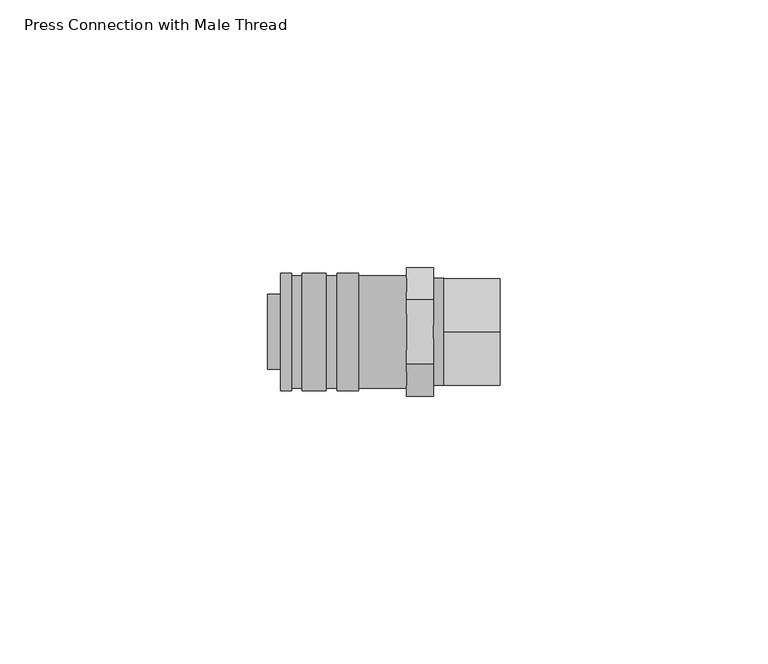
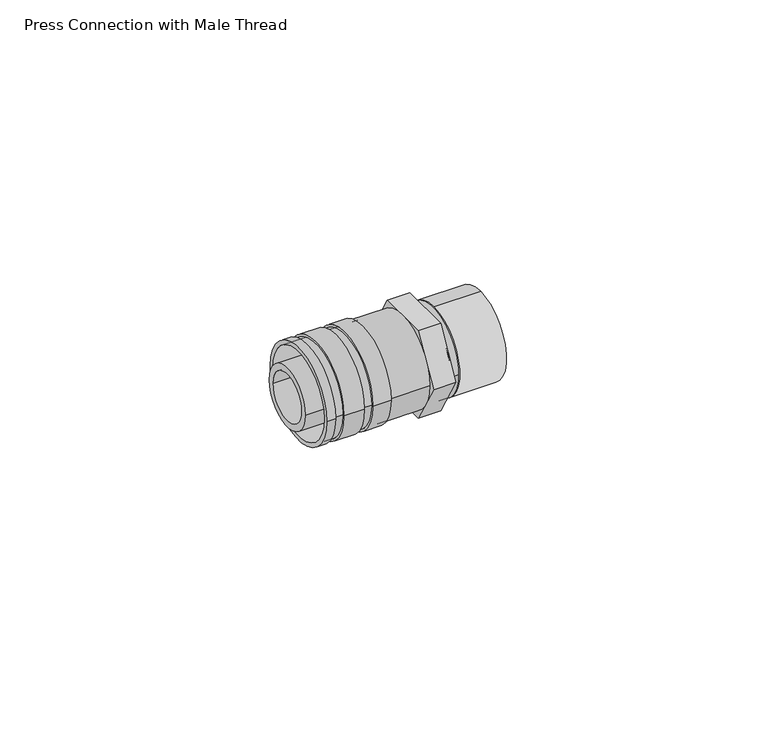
"""IFC4 building model written with IfcOpenShell, lengths in millimetres: pipe fitting geometry, Press Connection with Male Thread : Superpipe Press Connection - 20x½” MT."""

import ifcopenshell
import ifcopenshell.guid

model = None  # the IFC model being written
_history = None  # IfcOwnerHistory: only IFC2X3 demands one
_inside = {}  # id of a spatial element -> (the spatial element, [elements in it])
_under = {}  # id of a project, library or spatial element -> (it, [spatial elements below it])
_declared = {}  # id of a project -> (the project, [libraries it declares])
_typed = {}  # id of a type object -> (the type object, [elements of that type])
_made_of = {}  # id of a material, layer set ... -> (it, [elements and type objects made of it])


def new_model(schema):
    """Start an empty IFC model of exactly this schema.

    Asked for "IFC4X3", IfcOpenShell would pick the latest addendum, in which some entities
    have other attributes; the version numbers below select the first issue.
    IFC2X3 requires an IfcOwnerHistory on every rooted entity: one is made here for all.
    """
    global model, _history
    if schema == "IFC4X3":
        model = ifcopenshell.file(schema_version=(4, 3, 0, 0))
    else:
        model = ifcopenshell.file(schema=schema)
    _inside.clear()
    _under.clear()
    _declared.clear()
    _typed.clear()
    _made_of.clear()
    _history = None
    if model.schema == "IFC2X3":
        org = make("IfcOrganization", Name="unknown")
        user = make(
            "IfcPersonAndOrganization",
            ThePerson=make("IfcPerson", FamilyName="unknown"),
            TheOrganization=org,
        )
        app = make(
            "IfcApplication",
            ApplicationDeveloper=org,
            Version="unknown",
            ApplicationFullName="unknown",
            ApplicationIdentifier="unknown",
        )
        _history = make(
            "IfcOwnerHistory",
            OwningUser=user,
            OwningApplication=app,
            ChangeAction="ADDED",
            CreationDate=0,
        )
    return model


def make(cls, **values):
    """One entity of the class cls with the attributes given. An attribute that is None is left unset."""
    return model.create_entity(
        cls, **{name: value for name, value in values.items() if value is not None}
    )


def rooted(cls, **values):
    """An entity with a GlobalId (a new one), such as an element, a storey or a relation."""
    return make(cls, GlobalId=ifcopenshell.guid.new(), OwnerHistory=_history, **values)


def si_unit(unit_type, name, prefix=None):
    """IfcSIUnit, for example si_unit("LENGTHUNIT", "METRE", prefix="MILLI")."""
    return make("IfcSIUnit", UnitType=unit_type, Prefix=prefix, Name=name)


def assignment(units):
    """IfcUnitAssignment: the units of a project."""
    return None if units is None else make("IfcUnitAssignment", Units=units)


def point(xyz):
    """IfcCartesianPoint."""
    return None if xyz is None else make("IfcCartesianPoint", Coordinates=xyz)


def direction(xyz):
    """IfcDirection."""
    return None if xyz is None else make("IfcDirection", DirectionRatios=xyz)


def frame(location, z_axis=None, x_axis=None):
    """IfcAxis2Placement3D, a coordinate frame: its origin and axes. An axis left out is left unset."""
    return make(
        "IfcAxis2Placement3D",
        Location=point(location),
        Axis=direction(z_axis),
        RefDirection=direction(x_axis),
    )


def frame_2d(location, x_axis=None):
    """IfcAxis2Placement2D, a coordinate frame in the plane: its origin and x axis."""
    return make(
        "IfcAxis2Placement2D", Location=point(location), RefDirection=direction(x_axis)
    )


def origin():
    """The frame at (0, 0, 0) with its axes left unset."""
    return frame((0.0, 0.0, 0.0))


def origin_2d():
    """The frame at (0, 0) in the plane with its x axis left unset."""
    return frame_2d((0.0, 0.0))


def place(relative_to, where):
    """IfcLocalPlacement: puts the frame where relative to a parent placement (None: the world)."""
    return make(
        "IfcLocalPlacement", PlacementRelTo=relative_to, RelativePlacement=where
    )


def context(
    kind, dimensions, precision=None, world=None, true_north=None, identifier=None
):
    """IfcGeometricRepresentationContext, for example the 3D "Model" context."""
    return make(
        "IfcGeometricRepresentationContext",
        ContextIdentifier=identifier,
        ContextType=kind,
        CoordinateSpaceDimension=dimensions,
        Precision=precision,
        WorldCoordinateSystem=world,
        TrueNorth=true_north,
    )


def project(units=None, contexts=None):
    """IfcProject with its units and contexts."""
    return rooted(
        "IfcProject",
        Name="project",
        RepresentationContexts=contexts,
        UnitsInContext=assignment(units),
    )


def spatial(cls, under=None, at=None, **own):
    """A site, building, storey or space (cls), placed at a placement, below another one or the project."""
    s = rooted(cls, ObjectPlacement=at, **own)
    if under is not None:
        _under.setdefault(under.id(), (under, []))[1].append(s)
    return s


def polyline(points):
    """IfcPolyline through the points."""
    return make("IfcPolyline", Points=[point(p) for p in points])


def circle_curve(where, radius):
    """IfcCircle in the frame where."""
    return make("IfcCircle", Position=where, Radius=radius)


def trimmed(basis, trim1, trim2, sense, master):
    """IfcTrimmedCurve: the piece of a basis curve between two trims."""
    return make(
        "IfcTrimmedCurve",
        BasisCurve=basis,
        Trim1=trim1,
        Trim2=trim2,
        SenseAgreement=sense,
        MasterRepresentation=master,
    )


def segment(curve, same_sense, transition):
    """IfcCompositeCurveSegment."""
    return make(
        "IfcCompositeCurveSegment",
        Transition=transition,
        SameSense=same_sense,
        ParentCurve=curve,
    )


def composite_curve(segments, self_intersect=None):
    """IfcCompositeCurve: segments joined end to end."""
    return make("IfcCompositeCurve", Segments=segments, SelfIntersect=self_intersect)


def outline(outer, holes=None, kind="AREA"):
    """IfcArbitraryClosedProfileDef: a profile drawn as a closed curve; with holes, ...WithVoids."""
    if holes is None:
        return make("IfcArbitraryClosedProfileDef", ProfileType=kind, OuterCurve=outer)
    return make(
        "IfcArbitraryProfileDefWithVoids",
        ProfileType=kind,
        OuterCurve=outer,
        InnerCurves=holes,
    )


def extrude(swept, where, along, depth):
    """IfcExtrudedAreaSolid: the profile swept, set in the frame where, extruded along a direction by depth."""
    return make(
        "IfcExtrudedAreaSolid",
        SweptArea=swept,
        Position=where,
        ExtrudedDirection=direction(along),
        Depth=depth,
    )


def shape(context_of_items, identifier, shape_type, items):
    """IfcShapeRepresentation: the items that make up one representation, for example the "Body"."""
    return make(
        "IfcShapeRepresentation",
        ContextOfItems=context_of_items,
        RepresentationIdentifier=identifier,
        RepresentationType=shape_type,
        Items=items,
    )


def source(mapping_origin, context_of_items, identifier, shape_type, items):
    """IfcRepresentationMap: a shape defined once, which mapped items show again and again."""
    return make(
        "IfcRepresentationMap",
        MappingOrigin=mapping_origin,
        MappedRepresentation=shape(context_of_items, identifier, shape_type, items),
    )


def transform(
    local_origin,
    x_axis=None,
    y_axis=None,
    z_axis=None,
    scale=None,
    scale2=None,
    scale3=None,
    uniform=True,
):
    """IfcCartesianTransformationOperator3D, or its non-uniform kind. x_axis, y_axis, z_axis: its Axis1, 2, 3."""
    if uniform:
        return make(
            "IfcCartesianTransformationOperator3D",
            Axis1=direction(x_axis),
            Axis2=direction(y_axis),
            LocalOrigin=point(local_origin),
            Scale=scale,
            Axis3=direction(z_axis),
        )
    return make(
        "IfcCartesianTransformationOperator3DnonUniform",
        Axis1=direction(x_axis),
        Axis2=direction(y_axis),
        LocalOrigin=point(local_origin),
        Scale=scale,
        Axis3=direction(z_axis),
        Scale2=scale2,
        Scale3=scale3,
    )


def mapped(mapping_source, mapping_target):
    """IfcMappedItem: shows the shape of a source again, moved by a transform."""
    return make(
        "IfcMappedItem", MappingSource=mapping_source, MappingTarget=mapping_target
    )


def made_of(thing, what):
    """Note that an element or type object is made of a material, layer set ...; save() writes the relation."""
    if what is not None:
        _made_of.setdefault(what.id(), (what, []))[1].append(thing)
    return thing


def element(
    cls,
    number,
    at=None,
    inside=None,
    cuts=None,
    type_object=None,
    material=None,
    context=None,
    identifier="Body",
    shape_type=None,
    held_by="IfcProductDefinitionShape",
    body=None,
    shapes=None,
    **own,
):
    """One element of the class cls, such as IfcWall. Its Tag is "e" and its number.

    at: its placement. inside: the storey or other place that contains it. cuts: it is an
    opening in that element (IfcRelVoidsElement). A single representation is given by context,
    identifier, shape_type and body (its items); several are given by shapes. held_by: the class
    of the entity that holds the representations. save() writes the other relations.
    """
    e = rooted(cls, Tag="e%d" % number, ObjectPlacement=at, **own)
    if body is not None:
        shapes = [shape(context, identifier, shape_type, body)]
    if shapes is not None:
        e.Representation = make(held_by, Representations=shapes)
    if inside is not None:
        _inside.setdefault(inside.id(), (inside, []))[1].append(e)
    if cuts is not None:
        rooted(
            "IfcRelVoidsElement", RelatingBuildingElement=cuts, RelatedOpeningElement=e
        )
    if type_object is not None:
        _typed.setdefault(type_object.id(), (type_object, []))[1].append(e)
    return made_of(e, material)


def aggregate(whole, parts):
    """IfcRelAggregates: a whole, such as a stair, and the parts it consists of."""
    return rooted("IfcRelAggregates", RelatingObject=whole, RelatedObjects=parts)


def save(model, path):
    """Write the relations noted so far, then the file.

    IfcRelAggregates (storeys below a building ...), IfcRelContainedInSpatialStructure (elements
    in a storey), IfcRelDefinesByType, IfcRelAssociatesMaterial and IfcRelDeclares: one each for
    every whole, place, type object, material and project.
    """
    for whole, parts in _under.values():
        aggregate(whole, parts)
    for where, things in _inside.values():
        rooted(
            "IfcRelContainedInSpatialStructure",
            RelatedElements=things,
            RelatingStructure=where,
        )
    for kind, things in _typed.values():
        rooted("IfcRelDefinesByType", RelatedObjects=things, RelatingType=kind)
    for what, things in _made_of.values():
        rooted("IfcRelAssociatesMaterial", RelatedObjects=things, RelatingMaterial=what)
    for by, libraries in _declared.values():
        rooted("IfcRelDeclares", RelatingContext=by, RelatedDefinitions=libraries)
    model.write(path)


def plane_surface(at):
    """IfcPlane: the flat surface through the origin of the frame at, square to its z axis."""
    return make("IfcPlane", Position=at)


def cylinder_surface(at, radius):
    """IfcCylindricalSurface: all points at the distance radius from the z axis of the frame at."""
    return make("IfcCylindricalSurface", Position=at, Radius=radius)


def revolved_surface(curve, axis_point, axis_direction):
    """IfcSurfaceOfRevolution: the curve turned about the line through axis_point along axis_direction."""
    return make(
        "IfcSurfaceOfRevolution",
        SweptCurve=make("IfcArbitraryOpenProfileDef", ProfileType="CURVE", Curve=curve),
        AxisPosition=make("IfcAxis1Placement", Location=point(axis_point), Axis=direction(axis_direction)),
    )


def advanced_brep(points, edges, surfaces, faces):
    """IfcAdvancedBrep: a solid bounded by faces that lie on surfaces and meet in shared edges.

    An edge is (start, end): straight between two places in points (the first is 0);
    or (start, end, curve); or (start, end, curve, False) where it runs against its curve.
    A face is (place in surfaces, loops), or (place, loops, False) where it looks against
    its surface's normal. A loop lists edges by number (the first is 1), with a minus sign
    where the edge is run from its end to its start. The first loop is the outer one.
    """
    corners = [point(p) for p in points]
    vertices = [make("IfcVertexPoint", VertexGeometry=c) for c in corners]
    made = []
    for start, end, *more in edges:
        made.append(
            make(
                "IfcEdgeCurve",
                EdgeStart=vertices[start],
                EdgeEnd=vertices[end],
                EdgeGeometry=more[0] if more else make("IfcPolyline", Points=[corners[start], corners[end]]),
                SameSense=more[1] if len(more) > 1 else True,
            )
        )
    hull = []
    for where, loops, *sense in faces:
        bounds = []
        for j, loop in enumerate(loops):
            ring = [make("IfcOrientedEdge", EdgeElement=made[abs(k) - 1], Orientation=k > 0) for k in loop]
            bounds.append(
                make(
                    "IfcFaceOuterBound" if j == 0 else "IfcFaceBound",
                    Bound=make("IfcEdgeLoop", EdgeList=ring),
                    Orientation=True,
                )
            )
        hull.append(make("IfcAdvancedFace", Bounds=bounds, FaceSurface=surfaces[where], SameSense=sense[0] if sense else True))
    return make("IfcAdvancedBrep", Outer=make("IfcClosedShell", CfsFaces=hull))


def press_connection_with_male_thread_fee0158b(model_context):
    return source(origin(), model_context, "Body", "SolidModel", [
        extrude(outline(composite_curve([segment(trimmed(circle_curve(origin_2d(), 10.0), [point((0.0, -10.0))], [point((0.0, 10.0))], False, "CARTESIAN"), True, "CONTINUOUS"), segment(trimmed(circle_curve(origin_2d(), 10.0), [point((0.0, 10.0))], [point((0.0, -10.0))], False, "CARTESIAN"), True, "CONTINUOUS")], self_intersect=False), holes=[composite_curve([segment(trimmed(circle_curve(origin_2d(), 7.0), [point((0.0, -7.0))], [point((0.0, 7.0))], True, "CARTESIAN"), True, "CONTINUOUS"), segment(trimmed(circle_curve(origin_2d(), 7.0), [point((0.0, 7.0))], [point((0.0, -7.0))], True, "CARTESIAN"), True, "CONTINUOUS")], self_intersect=False)]), frame((33.0, 0.0, 0.0), z_axis=(1.0, 0.0, 0.0), x_axis=(0.0, 1.0, 0.0)), (0.0, 0.0, 1.0), 10.5),
        advanced_brep(
        [(2.5, 11.0, 0.0), (2.5, -11.0, 0.0), (2.5, 10.0, 0.0), (2.5, -10.0, 0.0), (26.0, -10.5, 0.0), (26.0, 10.5, 0.0), (26.0, 10.0, 0.0), (26.0, -10.0, 0.0), (4.5, 11.0, 0.0), (4.5, -11.0, 0.0), (17.0, 11.0, 0.0), (17.0, -11.0, 0.0), (13.0, -11.0, 0.0), (13.0, 11.0, 0.0), (11.0, 11.0, 0.0), (11.0, -11.0, 0.0), (6.5, -11.0, 0.0), (6.5, 11.0, 0.0), (17.0, 10.5, 0.0), (17.0, -10.5, 0.0), (13.0, -10.5, 0.0), (13.0, 10.5, 0.0), (11.0, 10.5, 0.0), (11.0, -10.5, 0.0), (6.5, -10.5, 0.0), (6.5, 10.5, 0.0), (4.5, 10.5, 0.0), (4.5, -10.5, 0.0)],
        [
            (0, 1, circle_curve(frame((2.5, 0.0, 0.0), z_axis=(-1.0, 0.0, 0.0), x_axis=(0.0, -1.0, 0.0)), 11.0)),
            (1, 0, circle_curve(frame((2.5, 0.0, 0.0), z_axis=(-1.0, 0.0, 0.0), x_axis=(0.0, -1.0, 0.0)), 11.0)),
            (2, 3, circle_curve(frame((2.5, 0.0, 0.0), z_axis=(1.0, 0.0, 0.0), x_axis=(0.0, -1.0, 0.0)), 10.0)),
            (3, 2, circle_curve(frame((2.5, 0.0, 0.0), z_axis=(1.0, 0.0, 0.0), x_axis=(0.0, -1.0, 0.0)), 10.0)),
            (4, 5, circle_curve(frame((26.0, 0.0, 0.0), z_axis=(1.0, 0.0, 0.0), x_axis=(0.0, 1.0, 0.0)), 10.5)),
            (5, 4, circle_curve(frame((26.0, 0.0, 0.0), z_axis=(1.0, 0.0, 0.0), x_axis=(0.0, 1.0, 0.0)), 10.5)),
            (6, 7, circle_curve(frame((26.0, 0.0, 0.0), z_axis=(-1.0, 0.0, 0.0), x_axis=(0.0, -1.0, 0.0)), 10.0)),
            (7, 6, circle_curve(frame((26.0, 0.0, 0.0), z_axis=(-1.0, 0.0, 0.0), x_axis=(0.0, -1.0, 0.0)), 10.0)),
            (0, 8),
            (8, 9, circle_curve(frame((4.5, 0.0, 0.0), z_axis=(-1.0, 0.0, 0.0), x_axis=(0.0, -1.0, 0.0)), 11.0)),
            (9, 1),
            (10, 11, circle_curve(frame((17.0, 0.0, 0.0), z_axis=(-1.0, 0.0, 0.0), x_axis=(0.0, -1.0, 0.0)), 11.0)),
            (11, 12),
            (12, 13, circle_curve(frame((13.0, 0.0, 0.0), z_axis=(1.0, 0.0, 0.0), x_axis=(0.0, -1.0, 0.0)), 11.0)),
            (13, 10),
            (14, 15, circle_curve(frame((11.0, 0.0, 0.0), z_axis=(-1.0, 0.0, 0.0), x_axis=(0.0, -1.0, 0.0)), 11.0)),
            (15, 16),
            (16, 17, circle_curve(frame((6.5, 0.0, 0.0), z_axis=(1.0, 0.0, 0.0), x_axis=(0.0, -1.0, 0.0)), 11.0)),
            (17, 14),
            (9, 8, circle_curve(frame((4.5, 0.0, 0.0), z_axis=(-1.0, 0.0, 0.0), x_axis=(0.0, -1.0, 0.0)), 11.0)),
            (11, 10, circle_curve(frame((17.0, 0.0, 0.0), z_axis=(-1.0, 0.0, 0.0), x_axis=(0.0, -1.0, 0.0)), 11.0)),
            (13, 12, circle_curve(frame((13.0, 0.0, 0.0), z_axis=(1.0, 0.0, 0.0), x_axis=(0.0, -1.0, 0.0)), 11.0)),
            (15, 14, circle_curve(frame((11.0, 0.0, 0.0), z_axis=(-1.0, 0.0, 0.0), x_axis=(0.0, -1.0, 0.0)), 11.0)),
            (17, 16, circle_curve(frame((6.5, 0.0, 0.0), z_axis=(1.0, 0.0, 0.0), x_axis=(0.0, -1.0, 0.0)), 11.0)),
            (2, 6),
            (7, 3),
            (18, 19, circle_curve(frame((17.0, 0.0, 0.0), z_axis=(-1.0, 0.0, 0.0), x_axis=(0.0, 1.0, 0.0)), 10.5)),
            (19, 11),
            (10, 18),
            (19, 18, circle_curve(frame((17.0, 0.0, 0.0), z_axis=(-1.0, 0.0, 0.0), x_axis=(0.0, 1.0, 0.0)), 10.5)),
            (18, 5),
            (4, 19),
            (20, 21, circle_curve(frame((13.0, 0.0, 0.0), z_axis=(1.0, 0.0, 0.0), x_axis=(0.0, 1.0, 0.0)), 10.5)),
            (21, 13),
            (12, 20),
            (21, 20, circle_curve(frame((13.0, 0.0, 0.0), z_axis=(1.0, 0.0, 0.0), x_axis=(0.0, 1.0, 0.0)), 10.5)),
            (22, 23, circle_curve(frame((11.0, 0.0, 0.0), z_axis=(-1.0, 0.0, 0.0), x_axis=(0.0, 1.0, 0.0)), 10.5)),
            (23, 15),
            (14, 22),
            (23, 22, circle_curve(frame((11.0, 0.0, 0.0), z_axis=(-1.0, 0.0, 0.0), x_axis=(0.0, 1.0, 0.0)), 10.5)),
            (20, 23),
            (22, 21),
            (24, 25, circle_curve(frame((6.5, 0.0, 0.0), z_axis=(1.0, 0.0, 0.0), x_axis=(0.0, 1.0, 0.0)), 10.5)),
            (25, 17),
            (16, 24),
            (25, 24, circle_curve(frame((6.5, 0.0, 0.0), z_axis=(1.0, 0.0, 0.0), x_axis=(0.0, 1.0, 0.0)), 10.5)),
            (26, 27, circle_curve(frame((4.5, 0.0, 0.0), z_axis=(-1.0, 0.0, 0.0), x_axis=(0.0, 1.0, 0.0)), 10.5)),
            (27, 9),
            (8, 26),
            (27, 26, circle_curve(frame((4.5, 0.0, 0.0), z_axis=(-1.0, 0.0, 0.0), x_axis=(0.0, 1.0, 0.0)), 10.5)),
            (24, 27),
            (26, 25),
        ],
        [
            plane_surface(frame((2.5, -11.0, 0.0), z_axis=(-1.0, 0.0, 0.0), x_axis=(0.0, 0.0, 1.0))),
            plane_surface(frame((26.0, -11.0, 0.0), z_axis=(1.0, 0.0, 0.0), x_axis=(0.0, 0.0, -1.0))),
            cylinder_surface(frame((26.0, 0.0, 0.0), z_axis=(-1.0, 0.0, 0.0), x_axis=(0.0, -1.0, 0.0)), 11.0),
            revolved_surface(polyline([(26.0, -10.0, 0.0), (2.5, -10.0, 0.0)]), (26.0, 0.0, 0.0), (1.0, 0.0, 0.0)),
            plane_surface(frame((17.0, 0.0, 0.0), z_axis=(1.0, 0.0, 0.0), x_axis=(0.0, 1.0, 0.0))),
            cylinder_surface(frame((1981.5, 0.0, 0.0), z_axis=(-1.0, 0.0, 0.0), x_axis=(0.0, 1.0, 0.0)), 10.5),
            plane_surface(frame((13.0, 0.0, 0.0), z_axis=(-1.0, 0.0, 0.0), x_axis=(0.0, 1.0, 0.0))),
            plane_surface(frame((11.0, 0.0, 0.0), z_axis=(1.0, 0.0, 0.0), x_axis=(0.0, 1.0, 0.0))),
            plane_surface(frame((6.5, 0.0, 0.0), z_axis=(-1.0, 0.0, 0.0), x_axis=(0.0, 1.0, 0.0))),
            plane_surface(frame((4.5, 0.0, 0.0), z_axis=(1.0, 0.0, 0.0), x_axis=(0.0, 1.0, 0.0))),
        ],
        [
            (0, [[1, 2], [3, 4]]),
            (1, [[5, 6], [7, 8]]),
            (2, [[-1, 9, 10, 11]]),
            (2, [[12, 13, 14, 15]]),
            (2, [[16, 17, 18, 19]]),
            (2, [[-2, -11, 20, -9]]),
            (2, [[21, -15, 22, -13]]),
            (2, [[23, -19, 24, -17]]),
            (3, [[-3, 25, -8, 26]]),
            (3, [[-4, -26, -7, -25]]),
            (4, [[27, 28, -12, 29]]),
            (4, [[30, -29, -21, -28]]),
            (5, [[-27, 31, -5, 32]]),
            (5, [[-30, -32, -6, -31]]),
            (6, [[33, 34, -14, 35]]),
            (6, [[36, -35, -22, -34]]),
            (7, [[37, 38, -16, 39]]),
            (7, [[40, -39, -23, -38]]),
            (5, [[-33, 41, -37, 42]]),
            (5, [[-36, -42, -40, -41]]),
            (8, [[43, 44, -18, 45]]),
            (8, [[46, -45, -24, -44]]),
            (9, [[47, 48, -10, 49]]),
            (9, [[50, -49, -20, -48]]),
            (5, [[-43, 51, -47, 52]]),
            (5, [[-46, -52, -50, -51]]),
        ],
    ),
        extrude(outline(composite_curve([segment(trimmed(circle_curve(origin_2d(), 10.0), [point((-10.0, 0.0))], [point((10.0, 0.0))], False, "CARTESIAN"), True, "CONTINUOUS"), segment(trimmed(circle_curve(origin_2d(), 10.0), [point((10.0, 0.0))], [point((-10.0, 0.0))], False, "CARTESIAN"), True, "CONTINUOUS")], self_intersect=False), holes=[composite_curve([segment(trimmed(circle_curve(origin_2d(), 7.0), [point((-7.0, 0.0))], [point((7.0, 0.0))], True, "CARTESIAN"), True, "CONTINUOUS"), segment(trimmed(circle_curve(origin_2d(), 7.0), [point((7.0, 0.0))], [point((-7.0, 0.0))], True, "CARTESIAN"), True, "CONTINUOUS")], self_intersect=False)]), frame((31.0, 0.0, 0.0), z_axis=(1.0, 0.0, 0.0), x_axis=(0.0, 1.0, 0.0)), (0.0, 0.0, 1.0), 2.0),
        extrude(outline(polyline([(-12.0088856, 0.0), (-6.0044428, 10.4), (6.0044428, 10.4), (12.0088856, 0.0), (6.0044428, -10.4), (-6.0044428, -10.4), (-12.0088856, 0.0)]), holes=[composite_curve([segment(trimmed(circle_curve(origin_2d(), 5.5), [point((5.5, 0.0))], [point((-5.5, 0.0))], True, "CARTESIAN"), True, "CONTINUOUS"), segment(trimmed(circle_curve(origin_2d(), 5.5), [point((-5.5, 0.0))], [point((5.5, 0.0))], True, "CARTESIAN"), True, "CONTINUOUS")], self_intersect=False)]), frame((26.0, 0.0, 0.0), z_axis=(1.0, 0.0, 0.0), x_axis=(0.0, 1.0, 0.0)), (0.0, 0.0, 1.0), 5.0),
        extrude(outline(composite_curve([segment(trimmed(circle_curve(origin_2d(), 7.0), [point((-7.0, 0.0))], [point((7.0, 0.0))], False, "CARTESIAN"), True, "CONTINUOUS"), segment(trimmed(circle_curve(origin_2d(), 7.0), [point((7.0, 0.0))], [point((-7.0, 0.0))], False, "CARTESIAN"), True, "CONTINUOUS")], self_intersect=False), holes=[composite_curve([segment(trimmed(circle_curve(origin_2d(), 5.5), [point((5.5, 0.0))], [point((-5.5, 0.0))], True, "CARTESIAN"), True, "CONTINUOUS"), segment(trimmed(circle_curve(origin_2d(), 5.5), [point((-5.5, 0.0))], [point((5.5, 0.0))], True, "CARTESIAN"), True, "CONTINUOUS")], self_intersect=False)]), frame((0.0, 0.0, 0.0), z_axis=(1.0, 0.0, 0.0), x_axis=(0.0, 1.0, 0.0)), (0.0, 0.0, 1.0), 26.0),
    ])


if __name__ == "__main__":
    model = new_model("IFC4")
    model_context = context("Model", 3, world=origin())
    ifc_project = project(units=[si_unit("LENGTHUNIT", "METRE", prefix="MILLI")], contexts=[model_context])
    site = spatial("IfcSite", under=ifc_project)
    building = spatial("IfcBuilding", under=site)
    placement = place(None, origin())
    press_connection_with_male_thread_shape = press_connection_with_male_thread_fee0158b(model_context)
    element("IfcPipeFitting", 1, ObjectType="Press Connection with Male Thread : Superpipe Press Connection - 20x½” MT", at=placement, inside=building, context=model_context, shape_type="MappedRepresentation", body=[
        mapped(press_connection_with_male_thread_shape, transform((0.0, 0.0, 0.0), x_axis=(1.0, 0.0, 0.0), y_axis=(0.0, 1.0, 0.0), z_axis=(0.0, 0.0, 1.0))),
    ])
    save(model, "model.ifc")
